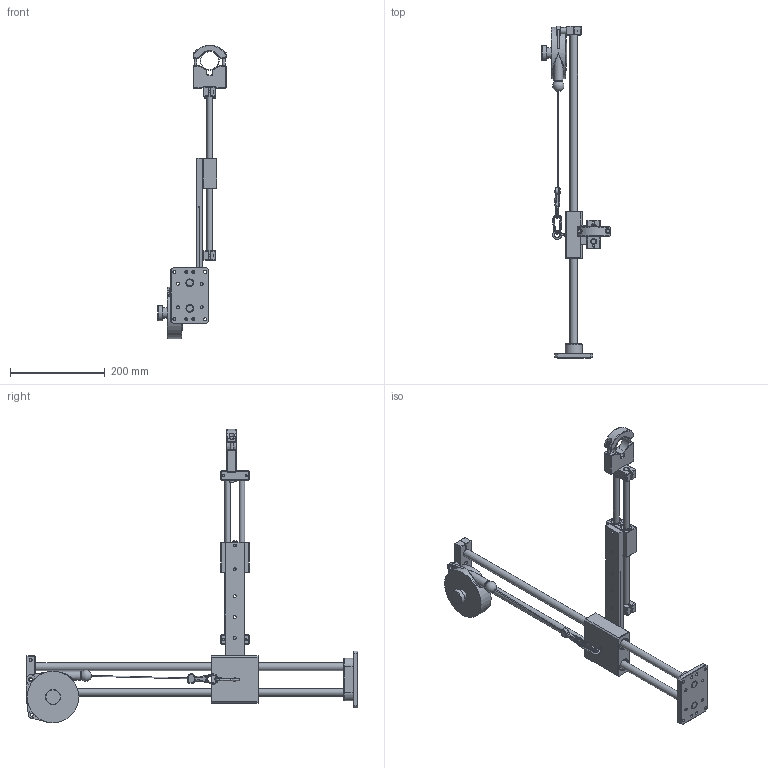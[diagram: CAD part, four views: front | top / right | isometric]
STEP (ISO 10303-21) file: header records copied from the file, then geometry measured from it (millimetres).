
FILE_DESCRIPTION(/* description */ ('Unknown'),/* implementation_level */ '2;1');
FILE_NAME(/* name */ '4-1200722_bras BA 25 C',/* time_stamp */ '2016-05-13T14:44:48+02:00',/* author */ ('Unknown'),/* organization */ ('Unknown'),/* preprocessor_version */ 'ST-DEVELOPER v16.7',/* originating_system */ 'DEX',/* authorisation */ $);
FILE_SCHEMA (('AUTOMOTIVE_DESIGN {1 0 10303 214 3 1 1}'));
Length unit declared in the file: millimetre
Products named in the file (35): 4-1200722_bras BA 25 C; pied sur chariot BA25 C; Vis HC M8x10 à bout plat; BEB16 modifié BA25 C; axe 16 BA25 C; Pied BA25 C; CHC M8x20; Entretoise; Equilibreur 3-5 Kg; Asm TB BA 25 C ; FHC M6x30; Asm boite à douille BA25; Douille KB12; Boîte à douille; Vis H M5x10 à collerette; Asm TB16 BA25 C EASY PUSH; Douille KB16; boite à douilles pour BA25C; Piton M5; Plaque support BA25 C; Cable; Asm coulisses BA25 C; CHC M5x20; Axe Coulisse BA25 C; Bride arrière; Butoir; Asm Bride de serrage Ø12 pour BA25 C; Aimant NE86; CHC M5x30; Bride avant; Asm pince BA25 C; CHC M6x45 fileté sous tete; Collier BA25 C; Pince BA25 C; Placement pince BA25
Assembly tree (51 placements, depth 4):
  4-1200722_bras BA 25 C
    pied sur chariot BA25 C
      Vis HC M8x10 à bout plat  x2
      BEB16 modifié BA25 C
      axe 16 BA25 C  x2
      Pied BA25 C
      CHC M8x20  x2
      Entretoise
      Equilibreur 3-5 Kg
    Asm TB BA 25 C 
      FHC M6x30  x2
      Asm boite à douille BA25
        Douille KB12  x4
        Boîte à douille
        Vis H M5x10 à collerette  x2
      Asm TB16 BA25 C EASY PUSH
        Douille KB16  x4
        boite à douilles pour BA25C
      Piton M5
      Plaque support BA25 C
    Cable
    Asm coulisses BA25 C
      CHC M5x20  x2
      Axe Coulisse BA25 C  x2
      Bride arrière
      Butoir
    Asm Bride de serrage Ø12 pour BA25 C
      Aimant NE86
      CHC M5x20  x2
      CHC M5x30  x2
      Bride avant
    Asm pince BA25 C
      CHC M6x45 fileté sous tete  x2
      Collier BA25 C
      Pince BA25 C
      Placement pince BA25
Bounding box: 144.5 x 701 x 620.33 mm (x, y, z)
Volume: 1557662.7 mm3; surface area: 391132.9 mm2
Topology: 44 solids, 44 shells, 969 faces, 2159 edges, 1357 vertices
Faces by surface type: plane 582, cylinder 246, cone 102, torus 28, sphere 8, bspline 3
Full cylindrical faces by diameter (mm): 2 x1, 2.5 x1, 4.134 x2, 4.2 x8, 4.5 x1, 4.8 x6, 4.917 x4, 5 x14, 5.2 x6, 5.8 x4, 6 x6, 6.5 x21, 6.647 x2, 6.8 x6, 7 x2, 7.8 x2, 8 x6, 8.1 x1, 8.5 x7, 9 x7, 10 x2, 11.7 x2, 12 x6, 13 x3, 13.5 x2, 16 x8, 19 x1, 22 x7, 24.9 x8, 26 x22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
Entity records: 23611 total; most frequent: CARTESIAN_POINT 6743, DIRECTION 3475, ORIENTED_EDGE 2866, EDGE_CURVE 1433, AXIS2_PLACEMENT_3D 1277, FACE_BOUND 1124, EDGE_LOOP 1115, VERTEX_POINT 989
